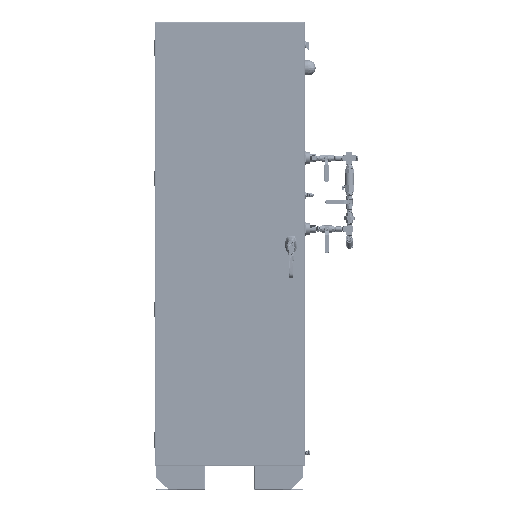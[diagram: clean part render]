
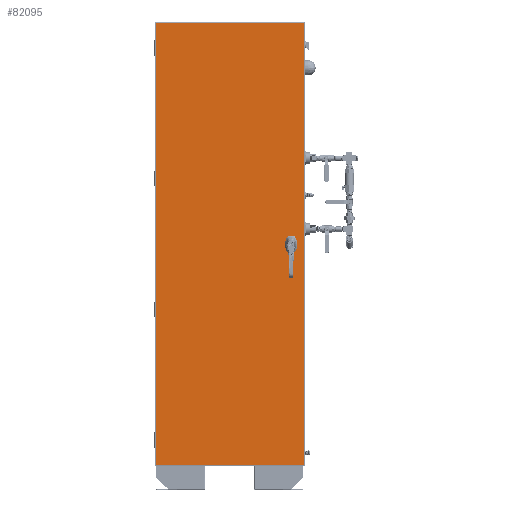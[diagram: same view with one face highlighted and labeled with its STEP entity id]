
A CAD part, top view. The second image highlights one B-rep face of the part: STEP entity #82095.
In plain terms, the highlighted planar face has unit normal (0, 0, 1).
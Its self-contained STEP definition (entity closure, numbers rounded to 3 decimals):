
#920=PLANE('',#87008);
#2517=FACE_BOUND('',#12078,.T.);
#2518=FACE_BOUND('',#12079,.T.);
#2519=FACE_BOUND('',#12080,.T.);
#4944=B_SPLINE_CURVE_WITH_KNOTS('',3,(#186205,#186206,#186207,#186208),
 .UNSPECIFIED.,.F.,.F.,(4,4),(0.,1.),
 .UNSPECIFIED.);
#4945=B_SPLINE_CURVE_WITH_KNOTS('',3,(#186212,#186213,#186214,#186215),
 .UNSPECIFIED.,.F.,.F.,(4,4),(0.,1.),.UNSPECIFIED.);
#4946=B_SPLINE_CURVE_WITH_KNOTS('',3,(#186216,#186217,#186218,#186219,#186220,
#186221,#186222,#186223,#186224,#186225,#186226,#186227,#186228,#186229,
#186230,#186231,#186232,#186233,#186234,#186235,#186236,#186237,#186238,
#186239,#186240,#186241,#186242,#186243,#186244,#186245,#186246,#186247,
#186248,#186249,#186250),.UNSPECIFIED.,.F.,.F.,(4,1,1,1,1,1,1,1,1,1,1,1,
1,1,1,1,1,1,1,1,1,1,1,1,1,1,1,1,1,1,1,1,4),(-1.,-0.937,
-0.875,-0.844,-0.812,-0.75,
-0.719,-0.687,-0.656,-0.625,
-0.594,-0.562,-0.547,-0.531,
-0.516,-0.5,-0.484,-0.469,
-0.437,-0.422,-0.406,-0.375,
-0.344,-0.312,-0.281,-0.25,
-0.219,-0.187,-0.156,-0.125,
-0.094,-0.062,0.),.UNSPECIFIED.);
#7656=FACE_OUTER_BOUND('',#12077,.T.);
#12077=EDGE_LOOP('',(#56584,#56585,#56586,#56587));
#12078=EDGE_LOOP('',(#56588,#56589,#56590,#56591));
#12079=EDGE_LOOP('',(#56592,#56593));
#12080=EDGE_LOOP('',(#56594,#56595));
#16231=CIRCLE('',#86848,0.045);
#16232=CIRCLE('',#86849,0.045);
#16234=CIRCLE('',#86852,0.045);
#16235=CIRCLE('',#86853,0.045);
#16284=CIRCLE('',#87009,1.752);
#21397=LINE('',#186066,#26451);
#21406=LINE('',#186088,#26460);
#21419=LINE('',#186113,#26473);
#21427=LINE('',#186129,#26481);
#26451=VECTOR('',#97374,39.37);
#26460=VECTOR('',#97403,39.37);
#26473=VECTOR('',#97434,39.37);
#26481=VECTOR('',#97458,39.37);
#32486=VERTEX_POINT('',#185243);
#32487=VERTEX_POINT('',#185245);
#32489=VERTEX_POINT('',#185251);
#32490=VERTEX_POINT('',#185253);
#32679=VERTEX_POINT('',#186063);
#32680=VERTEX_POINT('',#186065);
#32683=VERTEX_POINT('',#186086);
#32686=VERTEX_POINT('',#186111);
#32702=VERTEX_POINT('',#186203);
#32703=VERTEX_POINT('',#186204);
#32704=VERTEX_POINT('',#186209);
#32705=VERTEX_POINT('',#186211);
#41503=EDGE_CURVE('',#32486,#32487,#16231,.T.);
#41504=EDGE_CURVE('',#32487,#32486,#16232,.T.);
#41507=EDGE_CURVE('',#32489,#32490,#16234,.T.);
#41508=EDGE_CURVE('',#32490,#32489,#16235,.T.);
#41742=EDGE_CURVE('',#32680,#32679,#21397,.T.);
#41756=EDGE_CURVE('',#32679,#32683,#21406,.T.);
#41773=EDGE_CURVE('',#32683,#32686,#21419,.T.);
#41784=EDGE_CURVE('',#32686,#32680,#21427,.T.);
#41818=EDGE_CURVE('',#32702,#32703,#4944,.T.);
#41819=EDGE_CURVE('',#32703,#32704,#16284,.T.);
#41820=EDGE_CURVE('',#32704,#32705,#4945,.T.);
#41821=EDGE_CURVE('',#32705,#32702,#4946,.T.);
#56584=ORIENTED_EDGE('',*,*,#41784,.T.);
#56585=ORIENTED_EDGE('',*,*,#41742,.T.);
#56586=ORIENTED_EDGE('',*,*,#41756,.T.);
#56587=ORIENTED_EDGE('',*,*,#41773,.T.);
#56588=ORIENTED_EDGE('',*,*,#41818,.T.);
#56589=ORIENTED_EDGE('',*,*,#41819,.T.);
#56590=ORIENTED_EDGE('',*,*,#41820,.T.);
#56591=ORIENTED_EDGE('',*,*,#41821,.T.);
#56592=ORIENTED_EDGE('',*,*,#41504,.F.);
#56593=ORIENTED_EDGE('',*,*,#41503,.F.);
#56594=ORIENTED_EDGE('',*,*,#41508,.F.);
#56595=ORIENTED_EDGE('',*,*,#41507,.F.);
#82095=ADVANCED_FACE('',(#7656,#2517,#2518,#2519),#920,.F.);
#86848=AXIS2_PLACEMENT_3D('',#185246,#96995,#96996);
#86849=AXIS2_PLACEMENT_3D('',#185247,#96997,#96998);
#86852=AXIS2_PLACEMENT_3D('',#185254,#97004,#97005);
#86853=AXIS2_PLACEMENT_3D('',#185255,#97006,#97007);
#87008=AXIS2_PLACEMENT_3D('',#186202,#97545,#97546);
#87009=AXIS2_PLACEMENT_3D('',#186210,#97547,#97548);
#96995=DIRECTION('center_axis',(0.,0.,
1.));
#96996=DIRECTION('ref_axis',(1.,0.,0.));
#96997=DIRECTION('center_axis',(0.,0.,
1.));
#96998=DIRECTION('ref_axis',(1.,0.,0.));
#97004=DIRECTION('center_axis',(0.,0.,
1.));
#97005=DIRECTION('ref_axis',(1.,0.,0.));
#97006=DIRECTION('center_axis',(0.,0.,
1.));
#97007=DIRECTION('ref_axis',(1.,0.,0.));
#97374=DIRECTION('',(-1.,0.,0.));
#97403=DIRECTION('',(0.,-1.,0.));
#97434=DIRECTION('',(1.,0.,0.));
#97458=DIRECTION('',(0.,1.,0.));
#97545=DIRECTION('center_axis',(0.,0.,
-1.));
#97546=DIRECTION('ref_axis',(-1.,0.,0.));
#97547=DIRECTION('center_axis',(0.,0.,
-1.));
#97548=DIRECTION('ref_axis',(0.,1.,0.));
#185243=CARTESIAN_POINT('',(-5.813,5.161,5.145));
#185245=CARTESIAN_POINT('',(-5.723,5.161,5.145));
#185246=CARTESIAN_POINT('Origin',(-5.768,5.161,5.145));
#185247=CARTESIAN_POINT('Origin',(-5.768,5.161,5.145));
#185251=CARTESIAN_POINT('',(-16.313,5.161,5.145));
#185253=CARTESIAN_POINT('',(-16.223,5.161,5.145));
#185254=CARTESIAN_POINT('Origin',(-16.268,5.161,5.145));
#185255=CARTESIAN_POINT('Origin',(-16.268,5.161,5.145));
#186063=CARTESIAN_POINT('',(-23.096,41.246,5.145));
#186065=CARTESIAN_POINT('',(1.06,41.246,5.145));
#186066=CARTESIAN_POINT('',(1.06,41.246,5.145));
#186086=CARTESIAN_POINT('',(-23.096,-30.925,5.145));
#186088=CARTESIAN_POINT('',(-23.096,41.286,5.145));
#186111=CARTESIAN_POINT('',(1.06,-30.925,5.145));
#186113=CARTESIAN_POINT('',(-23.135,-30.925,5.145));
#186129=CARTESIAN_POINT('',(1.06,-30.925,5.145));
#186202=CARTESIAN_POINT('Origin',(-23.135,41.286,5.145));
#186203=CARTESIAN_POINT('',(-1.662,6.292,5.145));
#186204=CARTESIAN_POINT('',(-1.489,6.411,5.145));
#186205=CARTESIAN_POINT('Ctrl Pts',(-1.662,6.292,
5.145));
#186206=CARTESIAN_POINT('Ctrl Pts',(-1.62,6.35,
5.145));
#186207=CARTESIAN_POINT('Ctrl Pts',(-1.558,6.393,
5.145));
#186208=CARTESIAN_POINT('Ctrl Pts',(-1.489,6.411,
5.145));
#186209=CARTESIAN_POINT('',(-0.578,6.411,5.145));
#186210=CARTESIAN_POINT('Origin',(-1.033,4.719,5.145));
#186211=CARTESIAN_POINT('',(-0.405,6.292,5.145));
#186212=CARTESIAN_POINT('Ctrl Pts',(-0.578,6.411,
5.145));
#186213=CARTESIAN_POINT('Ctrl Pts',(-0.508,6.393,
5.145));
#186214=CARTESIAN_POINT('Ctrl Pts',(-0.447,6.35,
5.145));
#186215=CARTESIAN_POINT('Ctrl Pts',(-0.405,6.292,
5.145));
#186216=CARTESIAN_POINT('Ctrl Pts',(-0.405,6.292,
5.145));
#186217=CARTESIAN_POINT('Ctrl Pts',(-0.325,6.181,
5.145));
#186218=CARTESIAN_POINT('Ctrl Pts',(-0.2,5.936,
5.145));
#186219=CARTESIAN_POINT('Ctrl Pts',(-0.113,5.611,
5.145));
#186220=CARTESIAN_POINT('Ctrl Pts',(-0.076,5.341,
5.145));
#186221=CARTESIAN_POINT('Ctrl Pts',(-0.063,5.072,
5.145));
#186222=CARTESIAN_POINT('Ctrl Pts',(-0.081,4.804,
5.145));
#186223=CARTESIAN_POINT('Ctrl Pts',(-0.134,4.537,
5.145));
#186224=CARTESIAN_POINT('Ctrl Pts',(-0.192,4.343,
5.145));
#186225=CARTESIAN_POINT('Ctrl Pts',(-0.269,4.156,
5.145));
#186226=CARTESIAN_POINT('Ctrl Pts',(-0.37,3.977,
5.145));
#186227=CARTESIAN_POINT('Ctrl Pts',(-0.493,3.816,
5.145));
#186228=CARTESIAN_POINT('Ctrl Pts',(-0.622,3.701,
5.145));
#186229=CARTESIAN_POINT('Ctrl Pts',(-0.737,3.631,
5.145));
#186230=CARTESIAN_POINT('Ctrl Pts',(-0.833,3.59,
5.145));
#186231=CARTESIAN_POINT('Ctrl Pts',(-0.931,3.564,
5.145));
#186232=CARTESIAN_POINT('Ctrl Pts',(-1.034,3.555,
5.145));
#186233=CARTESIAN_POINT('Ctrl Pts',(-1.135,3.564,
5.145));
#186234=CARTESIAN_POINT('Ctrl Pts',(-1.268,3.599,
5.145));
#186235=CARTESIAN_POINT('Ctrl Pts',(-1.389,3.662,
5.145));
#186236=CARTESIAN_POINT('Ctrl Pts',(-1.497,3.748,
5.145));
#186237=CARTESIAN_POINT('Ctrl Pts',(-1.593,3.842,5.145));
#186238=CARTESIAN_POINT('Ctrl Pts',(-1.698,3.978,5.145));
#186239=CARTESIAN_POINT('Ctrl Pts',(-1.797,4.155,
5.145));
#186240=CARTESIAN_POINT('Ctrl Pts',(-1.875,4.345,
5.145));
#186241=CARTESIAN_POINT('Ctrl Pts',(-1.933,4.539,5.145));
#186242=CARTESIAN_POINT('Ctrl Pts',(-1.972,4.737,
5.145));
#186243=CARTESIAN_POINT('Ctrl Pts',(-1.994,4.937,
5.145));
#186244=CARTESIAN_POINT('Ctrl Pts',(-2.001,5.141,5.145));
#186245=CARTESIAN_POINT('Ctrl Pts',(-1.99,5.344,
5.145));
#186246=CARTESIAN_POINT('Ctrl Pts',(-1.963,5.544,
5.145));
#186247=CARTESIAN_POINT('Ctrl Pts',(-1.919,5.741,
5.145));
#186248=CARTESIAN_POINT('Ctrl Pts',(-1.834,6.001,5.145));
#186249=CARTESIAN_POINT('Ctrl Pts',(-1.742,6.181,
5.145));
#186250=CARTESIAN_POINT('Ctrl Pts',(-1.662,6.292,
5.145));
